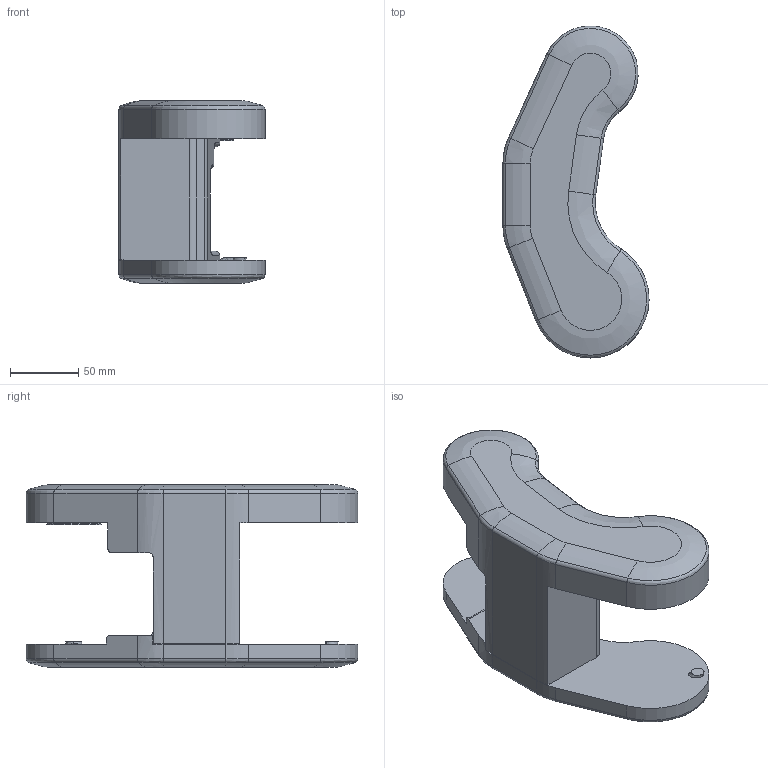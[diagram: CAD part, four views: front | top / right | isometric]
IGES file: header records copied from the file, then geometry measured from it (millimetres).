
Start section:  PTC IGES file: l_axis.igs
Global section: file name: l_axis.igs; native system: Creo Parametric by Parametric Technology Corporation; preprocessor: 2014000; author: Miyoshi_Nozomi; organization: Unknown; date: 20170420.143826; units: millimetre
Bounding box: 107 x 242.91 x 134 mm (x, y, z)
Volume: 1115527.2 mm3; surface area: 107590 mm2
Topology: 1 solids, 1 shells, 159 faces, 382 edges, 228 vertices
Faces by surface type: revolution 114, bspline 45
